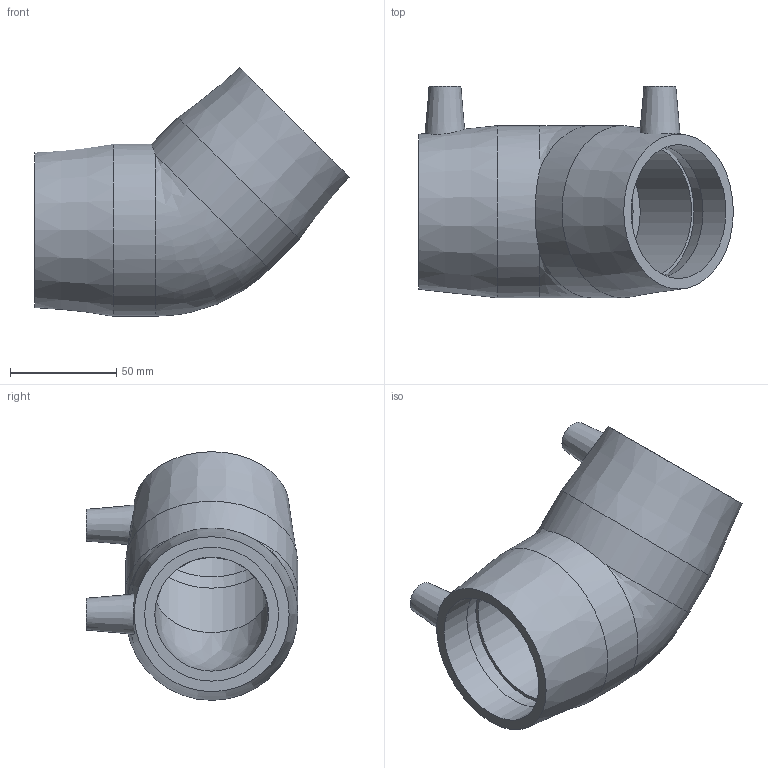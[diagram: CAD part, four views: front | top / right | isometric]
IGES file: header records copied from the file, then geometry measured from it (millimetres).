
Global section: file name: 490604063.ipt; native system: Autodesk Inventor 2015; preprocessor: unknown; author: KIM; date: 20171106.093651; units: millimetre
Bounding box: 148 x 99.5 x 116.9 mm (x, y, z)
Volume: 281938.2 mm3; surface area: 70360.4 mm2
Topology: 1 solids, 1 shells, 30 faces, 68 edges, 46 vertices
Faces by surface type: plane 12, revolution 9, cylinder 4, cone 4, bspline 1
Full cylindrical faces by diameter (mm): 4 x2, 81 x2
